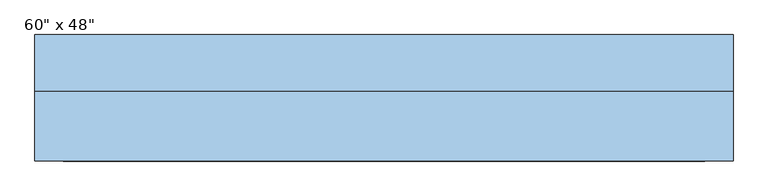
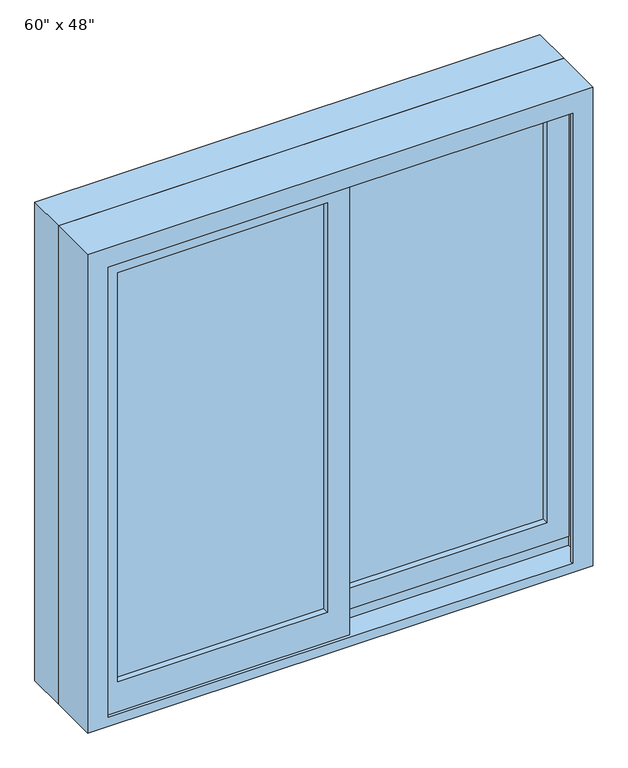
"""IFC4 building model written with IfcOpenShell, lengths in millimetres: window geometry."""

from ifc_helpers import new_model, si_unit, frame, origin, place, context, project, spatial, polyline, outline, extrude, faceted_brep, source, transform, mapped, element, save


def window_ef03c430(model_context):
    return source(origin(), model_context, "Body", "SolidModel", [
        extrude(outline(polyline([(933.45, 22.225), (1911.35, 22.225), (1911.35, -488.95), (933.45, -488.95), (933.45, 22.225)]), holes=[polyline([(1866.9, -444.5), (1866.9, -22.225), (996.95, -22.225), (996.95, -444.5), (1866.9, -444.5)])]), frame((0.0, -91.44, 0.0), z_axis=(0.0, 1.0, 0.0), x_axis=(0.0, 0.0, 1.0)), (0.0, 0.0, 1.0), 44.45),
        extrude(outline(polyline([(952.5, -22.225), (952.5, 488.95), (1911.35, 488.95), (1911.35, -22.225), (952.5, -22.225)]), holes=[polyline([(996.95, 444.5), (996.95, 22.225), (1866.9, 22.225), (1866.9, 444.5), (996.95, 444.5)])]), frame((0.0, -46.99, 0.0), z_axis=(0.0, 1.0, 0.0), x_axis=(0.0, 0.0, 1.0)), (0.0, 0.0, 1.0), 44.45),
        faceted_brep([(-508.0, 3.81, 914.4), (508.0, 3.81, 914.4), (508.0, -97.79, 914.4), (-508.0, -97.79, 914.4), (-467.0778905, -97.79, 1889.4778905), (-467.0778905, -97.79, 933.45), (-467.0778905, -91.44, 933.45), (-467.0778905, -91.44, 1889.4778905), (-488.95, -91.44, 933.45), (-488.95, -91.44, 1911.35), (488.95, -91.44, 1911.35), (488.95, -91.44, 933.45), (467.0778905, -91.44, 933.45), (467.0778905, -91.44, 1889.4778905), (-488.95, -46.99, 933.45), (-488.95, -46.99, 952.5), (-488.95, -2.54, 952.5), (-488.95, -2.54, 933.45), (-488.95, 3.81, 933.45), (-488.95, 3.81, 1911.35), (-508.0, 3.81, 1930.4), (508.0, 3.81, 1930.4), (488.95, 3.81, 1911.35), (488.95, 3.81, 933.45), (-508.0, -97.79, 1930.4), (508.0, -97.79, 1930.4), (467.0778905, -97.79, 1889.4778905), (467.0778905, -97.79, 933.45), (488.95, -2.54, 933.45), (488.95, -2.54, 952.5), (488.95, -46.99, 952.5), (488.95, -46.99, 933.45)], [[[0, 1, 2, 3]], [[4, 5, 6, 7]], [[7, 6, 8, 9, 10, 11, 12, 13]], [[9, 8, 14, 15, 16, 17, 18, 19]], [[0, 20, 21, 1], [22, 19, 18, 23]], [[24, 20, 0, 3]], [[2, 25, 24, 3], [4, 26, 27, 5]], [[7, 13, 26, 4]], [[9, 19, 22, 10]], [[20, 24, 25, 21]], [[13, 12, 27, 26]], [[22, 23, 28, 29, 30, 31, 11, 10]], [[21, 25, 2, 1]], [[27, 12, 11, 31, 14, 8, 6, 5]], [[31, 30, 15, 14]], [[30, 29, 16, 15]], [[29, 28, 17, 16]], [[18, 17, 28, 23]]]),
        extrude(outline(polyline([(1930.4, 508.0), (1930.4, -508.0), (914.4, -508.0), (914.4, 508.0), (1930.4, 508.0)]), holes=[polyline([(1911.35, -488.95), (1911.35, 488.95), (933.45, 488.95), (933.45, -488.95), (1911.35, -488.95)])]), frame((0.0, 3.81, 0.0), z_axis=(0.0, 1.0, 0.0), x_axis=(0.0, 0.0, 1.0)), (0.0, 0.0, 1.0), 82.55),
        extrude(outline(polyline([(444.5, -34.29), (22.225, -34.29), (22.225, -27.94), (444.5, -27.94), (444.5, -34.29)])), frame((0.0, 0.0, 996.95), z_axis=(0.0, 0.0, 1.0), x_axis=(1.0, 0.0, 0.0)), (0.0, 0.0, 1.0), 869.95),
        extrude(outline(polyline([(444.5, -21.59), (22.225, -21.59), (22.225, -15.24), (444.5, -15.24), (444.5, -21.59)])), frame((0.0, 0.0, 996.95), z_axis=(0.0, 0.0, 1.0), x_axis=(1.0, 0.0, 0.0)), (0.0, 0.0, 1.0), 869.95),
        extrude(outline(polyline([(-22.225, -78.74), (-444.5, -78.74), (-444.5, -72.39), (-22.225, -72.39), (-22.225, -78.74)])), frame((0.0, 0.0, 996.95), z_axis=(0.0, 0.0, 1.0), x_axis=(1.0, 0.0, 0.0)), (0.0, 0.0, 1.0), 869.95),
        extrude(outline(polyline([(-22.225, -66.04), (-444.5, -66.04), (-444.5, -59.69), (-22.225, -59.69), (-22.225, -66.04)])), frame((0.0, 0.0, 996.95), z_axis=(0.0, 0.0, 1.0), x_axis=(1.0, 0.0, 0.0)), (0.0, 0.0, 1.0), 869.95),
    ])


if __name__ == "__main__":
    model = new_model("IFC4")
    model_context = context("Model", 3, world=origin())
    ifc_project = project(units=[si_unit("LENGTHUNIT", "METRE", prefix="MILLI")], contexts=[model_context])
    site = spatial("IfcSite", under=ifc_project)
    building = spatial("IfcBuilding", under=site)
    placement = place(None, origin())
    window_shape = window_ef03c430(model_context)
    element("IfcWindow", 1, ObjectType="Planitar-Sliding-Double : 60\" x 48\"", at=placement, inside=building, context=model_context, shape_type="MappedRepresentation", body=[
        mapped(window_shape, transform((0.0, 0.0, 0.0), x_axis=(1.0, 0.0, 0.0), y_axis=(0.0, 1.0, 0.0), z_axis=(0.0, 0.0, 1.0))),
    ])
    save(model, "model.ifc")
